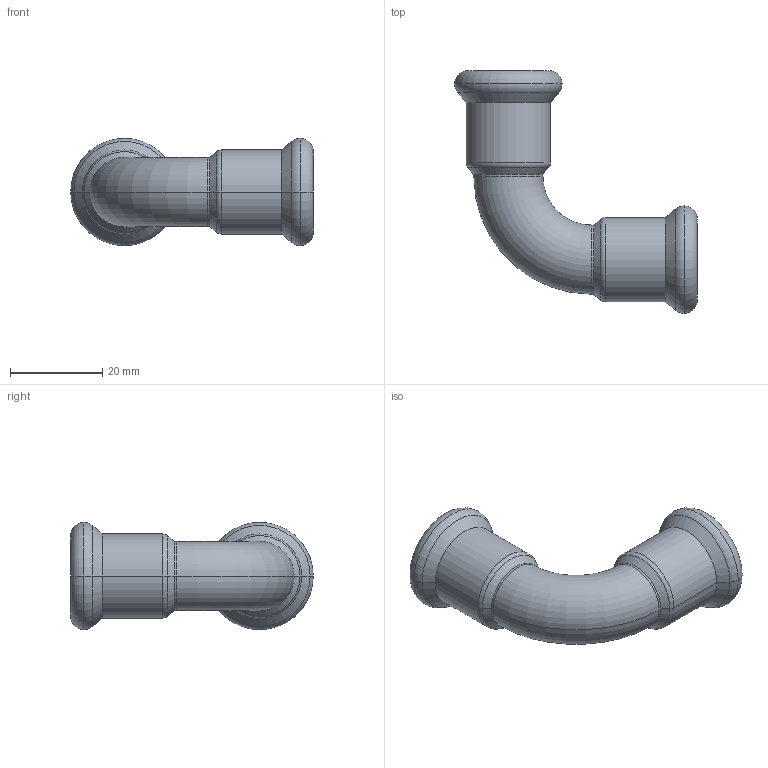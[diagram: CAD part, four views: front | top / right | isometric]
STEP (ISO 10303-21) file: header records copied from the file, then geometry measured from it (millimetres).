
FILE_DESCRIPTION(('CoCreate Modeling STEP Export'),'2;1');
FILE_NAME('C1408 15x15.stp','2014-11-07T16:42:16',(''),(''),'CoCreate Modeling STEP processor for AP214 (Solid Model)','CoCreate Modeling 17.00A 17-Jun-2010 (C) Parametric Technology GmbH','');
FILE_SCHEMA(('AUTOMOTIVE_DESIGN { 1 0 10303 214 1 1 1 1 }'));
Length unit declared in the file: millimetre
Products named in the file (2): C1408_15x15
Assembly tree (1 placements, depth 2):
  C1408_15x15
    C1408_15x15
Bounding box: 52.65 x 52.65 x 23.3 mm (x, y, z)
Volume: 6683.6 mm3; surface area: 8058.6 mm2
Topology: 1 solids, 1 shells, 50 faces, 104 edges, 60 vertices
Faces by surface type: cylinder 20, torus 16, cone 8, plane 6
Entity records: 1119 total; most frequent: ORIENTED_EDGE 208, DIRECTION 176, CARTESIAN_POINT 162, EDGE_CURVE 104, AXIS2_PLACEMENT_3D 74, VERTEX_POINT 60, EDGE_LOOP 56, FACE_OUTER_BOUND 50
